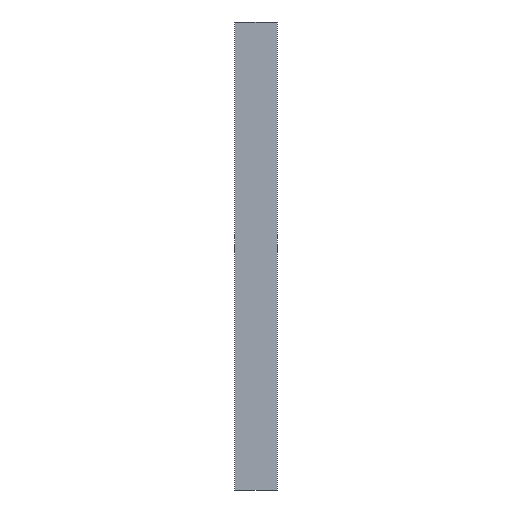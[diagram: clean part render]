
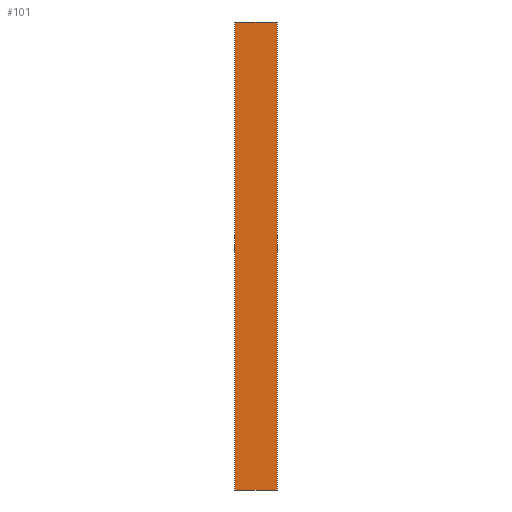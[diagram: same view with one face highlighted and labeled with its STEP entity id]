
A CAD part, front view. The second image highlights one B-rep face of the part: STEP entity #101.
In plain terms, the highlighted planar face has unit normal (0, -1, 0).
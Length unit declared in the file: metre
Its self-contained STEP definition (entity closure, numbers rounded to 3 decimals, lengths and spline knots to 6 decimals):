
#15=FACE_OUTER_BOUND('',#21,.T.);
#21=EDGE_LOOP('',(#74,#75,#76,#77));
#27=LINE('',#147,#39);
#30=LINE('',#153,#42);
#31=LINE('',#155,#43);
#32=LINE('',#156,#44);
#39=VECTOR('',#120,1.);
#42=VECTOR('',#125,0.09);
#43=VECTOR('',#126,1.);
#44=VECTOR('',#127,0.09);
#51=VERTEX_POINT('',#144);
#52=VERTEX_POINT('',#146);
#54=VERTEX_POINT('',#152);
#55=VERTEX_POINT('',#154);
#59=EDGE_CURVE('',#52,#51,#27,.T.);
#62=EDGE_CURVE('',#51,#54,#30,.T.);
#63=EDGE_CURVE('',#55,#54,#31,.T.);
#64=EDGE_CURVE('',#52,#55,#32,.T.);
#74=ORIENTED_EDGE('',*,*,#62,.T.);
#75=ORIENTED_EDGE('',*,*,#63,.F.);
#76=ORIENTED_EDGE('',*,*,#64,.F.);
#77=ORIENTED_EDGE('',*,*,#59,.T.);
#95=PLANE('',#110);
#101=ADVANCED_FACE('',(#15),#95,.F.);
#110=AXIS2_PLACEMENT_3D('',#151,#123,#124);
#120=DIRECTION('',(0.,0.,-1.));
#123=DIRECTION('center_axis',(0.,1.,0.));
#124=DIRECTION('ref_axis',(0.,0.,1.));
#125=DIRECTION('',(1.,0.,0.));
#126=DIRECTION('',(0.,0.,-1.));
#127=DIRECTION('',(1.,0.,0.));
#144=CARTESIAN_POINT('',(-0.045,-0.0025,0.));
#146=CARTESIAN_POINT('',(-0.045,-0.0025,1.));
#147=CARTESIAN_POINT('',(-0.045,-0.0025,1.));
#151=CARTESIAN_POINT('Origin',(-0.045,-0.0025,1.));
#152=CARTESIAN_POINT('',(0.045,-0.0025,0.));
#153=CARTESIAN_POINT('',(-0.045,-0.0025,0.));
#154=CARTESIAN_POINT('',(0.045,-0.0025,1.));
#155=CARTESIAN_POINT('',(0.045,-0.0025,1.));
#156=CARTESIAN_POINT('',(-0.045,-0.0025,1.));
